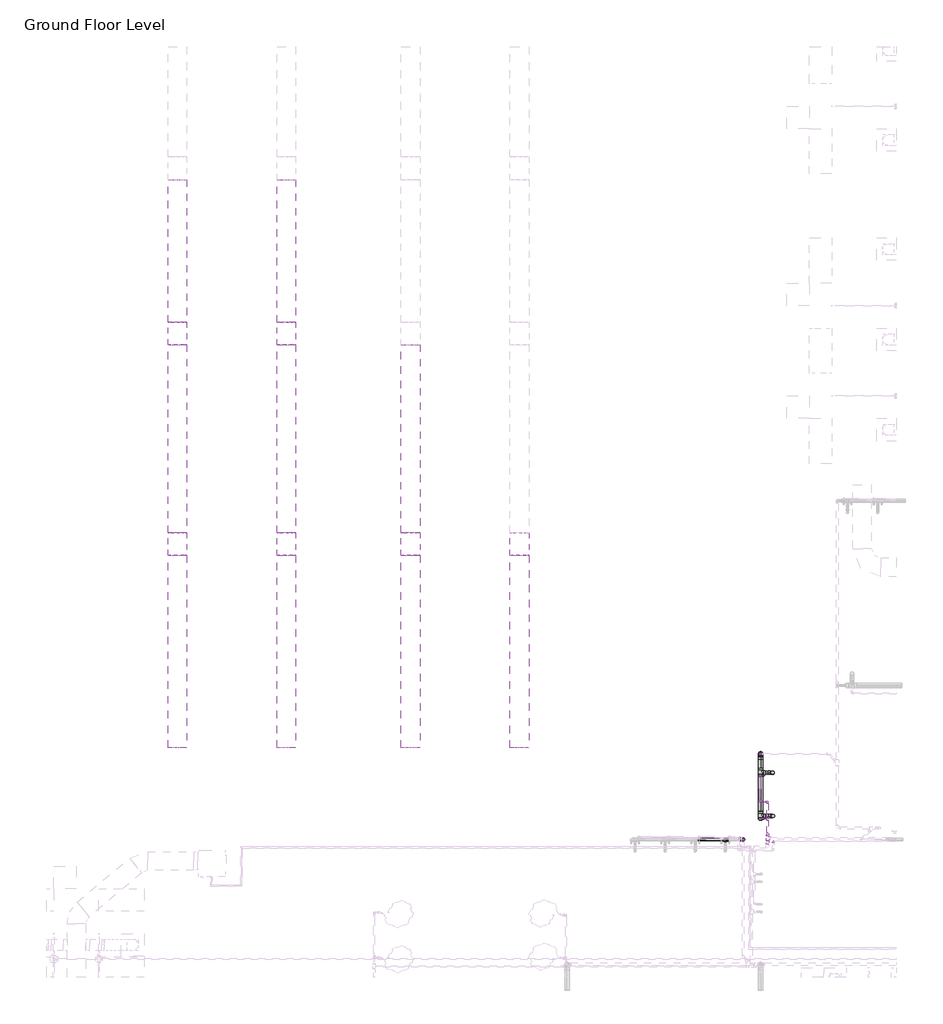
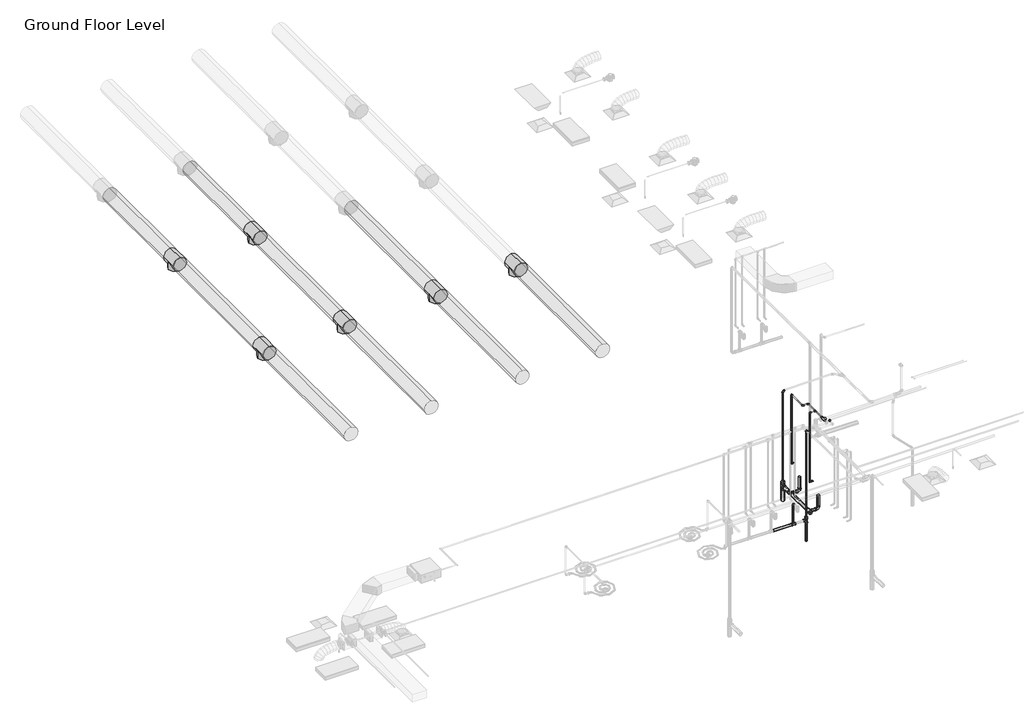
# One storey, part 9 of 75: 24 pipe segments, 23 pipe fittings, 9 duct segments, 6 duct fittings.
"""IFC4 building model written with IfcOpenShell, lengths in millimetres."""

from ifc_helpers import new_model, si_unit, point, frame, frame_2d, origin, place, context, project, spatial, circle_curve, trimmed, segment, composite_curve, outline, extrude, transform, mapped, element, save
from components import m_round_tee_standard_ed589d36, m_bend_pvc_sch_40_dwv_standard_a4b99d37, m_bend_pvc_sch_40_dwv_standard_1e7bdcc1, m_bend_pvc_sch_40_dwv_standard_877aed9a, m_bend_pvc_sch_40_dwv_standard_aca7b112, m_plug_pvc_sch_40_dwv_standard_6c40de1c, m_reducer_pvc_sch_40_dwv_standard_19331f3d, m_reducer_pvc_sch_40_dwv_standard_b84ad399, m_tee_reducing_sanitary_pvc_sch_40_dwv_standard_b49161a9, m_tee_reducing_sanitary_pvc_sch_40_dwv_standard_21d2848c, m_tee_reducing_sanitary_pvc_sch_40_dwv_standard_b574f8c1, m_tee_reducing_sanitary_pvc_sch_40_dwv_standard_749dcb00, standard_517a5a8d, standard_72b35c3b, standard_cd25fed3, standard_f1337950

model = new_model("IFC4")

# Units and contexts
model_context = context("Model", 3, world=origin())
ifc_project = project(units=[si_unit("LENGTHUNIT", "METRE", prefix="MILLI")], contexts=[model_context])

# Site, building, storey
site = spatial("IfcSite", under=ifc_project)
building = spatial("IfcBuilding", under=site)
storey = spatial("IfcBuildingStorey", under=building, Name="Ground Floor Level", Elevation=900.0)

# Duct fittings
placement = place(None, origin())
m_round_tee_standard_shape = m_round_tee_standard_ed589d36(model_context)
element("IfcDuctFitting", 1, ObjectType="M_Round Tee : Standard", at=placement, inside=storey, context=model_context, shape_type="MappedRepresentation", body=[
    mapped(m_round_tee_standard_shape, transform((-16150.3527512, -19404.784563, 7765.9063151), x_axis=(0.0, 0.9999999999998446, -5.576948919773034e-07), y_axis=(0.0, 5.576948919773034e-07, 0.9999999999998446), z_axis=(1.0, 0.0, 0.0))),
])
element("IfcDuctFitting", 2, ObjectType="M_Round Tee : Standard", at=placement, inside=storey, context=model_context, shape_type="MappedRepresentation", body=[
    mapped(m_round_tee_standard_shape, transform((-16150.3527512, -25004.784563, 7765.9094382), x_axis=(0.0, 0.9999999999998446, -5.576948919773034e-07), y_axis=(0.0, 5.576948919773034e-07, 0.9999999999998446), z_axis=(1.0, 0.0, 0.0))),
])
element("IfcDuctFitting", 3, ObjectType="M_Round Tee : Standard", at=placement, inside=storey, context=model_context, shape_type="MappedRepresentation", body=[
    mapped(m_round_tee_standard_shape, transform((-13250.3527512, -19404.784563, 7765.9063151), x_axis=(0.0, 0.9999999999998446, -5.576948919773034e-07), y_axis=(0.0, 5.576948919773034e-07, 0.9999999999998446), z_axis=(1.0, 0.0, 0.0))),
])
element("IfcDuctFitting", 4, ObjectType="M_Round Tee : Standard", at=placement, inside=storey, context=model_context, shape_type="MappedRepresentation", body=[
    mapped(m_round_tee_standard_shape, transform((-13250.3527512, -25004.784563, 7765.9094382), x_axis=(0.0, 0.9999999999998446, -5.576948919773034e-07), y_axis=(0.0, 5.576948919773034e-07, 0.9999999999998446), z_axis=(1.0, 0.0, 0.0))),
])
element("IfcDuctFitting", 5, ObjectType="M_Round Tee : Standard", at=placement, inside=storey, context=model_context, shape_type="MappedRepresentation", body=[
    mapped(m_round_tee_standard_shape, transform((-9950.3527512, -25004.784563, 7765.9094382), x_axis=(0.0, 0.9999999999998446, -5.576948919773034e-07), y_axis=(0.0, 5.576948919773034e-07, 0.9999999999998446), z_axis=(1.0, 0.0, 0.0))),
])
element("IfcDuctFitting", 6, ObjectType="M_Round Tee : Standard", at=placement, inside=storey, context=model_context, shape_type="MappedRepresentation", body=[
    mapped(m_round_tee_standard_shape, transform((-7050.3527512, -25004.784563, 7765.9094382), x_axis=(0.0, 0.9999999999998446, -5.576948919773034e-07), y_axis=(0.0, 5.576948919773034e-07, 0.9999999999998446), z_axis=(1.0, 0.0, 0.0))),
])

# Duct segments
element("IfcDuctSegment", 7, ObjectType="Tees", at=placement, inside=storey, context=model_context, shape_type="SweptSolid", body=[
    extrude(outline(composite_curve([segment(trimmed(circle_curve(frame_2d((7765.9061478, -16150.3527512)), 250.0), [point((7765.9061478, -15900.3527512))], [point((8015.9061478, -16150.3527512))], False, "CARTESIAN"), True, "CONTINUOUS"), segment(trimmed(circle_curve(frame_2d((7765.9061478, -16150.3527512)), 250.0), [point((8015.9061478, -16150.3527512))], [point((7765.9061478, -16400.3527512))], False, "CARTESIAN"), True, "CONTINUOUS"), segment(trimmed(circle_curve(frame_2d((7765.9061478, -16150.3527512)), 250.0), [point((7765.9061478, -16400.3527512))], [point((7515.9061478, -16150.3527512))], False, "CARTESIAN"), True, "CONTINUOUS"), segment(trimmed(circle_curve(frame_2d((7765.9061478, -16150.3527512)), 250.0), [point((7515.9061478, -16150.3527512))], [point((7765.9061478, -15900.3527512))], False, "CARTESIAN"), True, "CONTINUOUS")], self_intersect=False)), frame((0.0, -19104.784563, 0.0), z_axis=(0.0, 1.0, 0.0), x_axis=(0.0, 0.0, 1.0)), (0.0, 0.0, 1.0), 3792.000215),
])
element("IfcDuctSegment", 8, ObjectType="Tees", at=placement, inside=storey, context=model_context, shape_type="SweptSolid", body=[
    extrude(outline(composite_curve([segment(trimmed(circle_curve(frame_2d((7765.9092709, -16150.3527512)), 250.0), [point((7765.9092709, -15900.3527512))], [point((8015.9092709, -16150.3527512))], False, "CARTESIAN"), True, "CONTINUOUS"), segment(trimmed(circle_curve(frame_2d((7765.9092709, -16150.3527512)), 250.0), [point((8015.9092709, -16150.3527512))], [point((7765.9092709, -16400.3527512))], False, "CARTESIAN"), True, "CONTINUOUS"), segment(trimmed(circle_curve(frame_2d((7765.9092709, -16150.3527512)), 250.0), [point((7765.9092709, -16400.3527512))], [point((7515.9092709, -16150.3527512))], False, "CARTESIAN"), True, "CONTINUOUS"), segment(trimmed(circle_curve(frame_2d((7765.9092709, -16150.3527512)), 250.0), [point((7515.9092709, -16150.3527512))], [point((7765.9092709, -15900.3527512))], False, "CARTESIAN"), True, "CONTINUOUS")], self_intersect=False)), frame((0.0, -24704.784563, 0.0), z_axis=(0.0, 1.0, 0.0), x_axis=(0.0, 0.0, 1.0)), (0.0, 0.0, 1.0), 5000.0),
])
element("IfcDuctSegment", 9, ObjectType="Tees", at=placement, inside=storey, context=model_context, shape_type="SweptSolid", body=[
    extrude(outline(composite_curve([segment(trimmed(circle_curve(frame_2d((7765.9125, -16150.3527512)), 250.0), [point((7765.9125, -15900.3527512))], [point((8015.9125, -16150.3527512))], False, "CARTESIAN"), True, "CONTINUOUS"), segment(trimmed(circle_curve(frame_2d((7765.9125, -16150.3527512)), 250.0), [point((8015.9125, -16150.3527512))], [point((7765.9125, -16400.3527512))], False, "CARTESIAN"), True, "CONTINUOUS"), segment(trimmed(circle_curve(frame_2d((7765.9125, -16150.3527512)), 250.0), [point((7765.9125, -16400.3527512))], [point((7515.9125, -16150.3527512))], False, "CARTESIAN"), True, "CONTINUOUS"), segment(trimmed(circle_curve(frame_2d((7765.9125, -16150.3527512)), 250.0), [point((7515.9125, -16150.3527512))], [point((7765.9125, -15900.3527512))], False, "CARTESIAN"), True, "CONTINUOUS")], self_intersect=False)), frame((0.0, -30422.0587669, 0.0), z_axis=(0.0, 1.0, 0.0), x_axis=(0.0, 0.0, 1.0)), (0.0, 0.0, 1.0), 5117.2742039),
])
element("IfcDuctSegment", 10, ObjectType="Tees", at=placement, inside=storey, context=model_context, shape_type="SweptSolid", body=[
    extrude(outline(composite_curve([segment(trimmed(circle_curve(frame_2d((7765.9061478, -13250.3527512)), 250.0), [point((7765.9061478, -13000.3527512))], [point((8015.9061478, -13250.3527512))], False, "CARTESIAN"), True, "CONTINUOUS"), segment(trimmed(circle_curve(frame_2d((7765.9061478, -13250.3527512)), 250.0), [point((8015.9061478, -13250.3527512))], [point((7765.9061478, -13500.3527512))], False, "CARTESIAN"), True, "CONTINUOUS"), segment(trimmed(circle_curve(frame_2d((7765.9061478, -13250.3527512)), 250.0), [point((7765.9061478, -13500.3527512))], [point((7515.9061478, -13250.3527512))], False, "CARTESIAN"), True, "CONTINUOUS"), segment(trimmed(circle_curve(frame_2d((7765.9061478, -13250.3527512)), 250.0), [point((7515.9061478, -13250.3527512))], [point((7765.9061478, -13000.3527512))], False, "CARTESIAN"), True, "CONTINUOUS")], self_intersect=False)), frame((0.0, -19104.784563, 0.0), z_axis=(0.0, 1.0, 0.0), x_axis=(0.0, 0.0, 1.0)), (0.0, 0.0, 1.0), 3792.000215),
])
element("IfcDuctSegment", 11, ObjectType="Tees", at=placement, inside=storey, context=model_context, shape_type="SweptSolid", body=[
    extrude(outline(composite_curve([segment(trimmed(circle_curve(frame_2d((7765.9092709, -13250.3527512)), 250.0), [point((7765.9092709, -13000.3527512))], [point((8015.9092709, -13250.3527512))], False, "CARTESIAN"), True, "CONTINUOUS"), segment(trimmed(circle_curve(frame_2d((7765.9092709, -13250.3527512)), 250.0), [point((8015.9092709, -13250.3527512))], [point((7765.9092709, -13500.3527512))], False, "CARTESIAN"), True, "CONTINUOUS"), segment(trimmed(circle_curve(frame_2d((7765.9092709, -13250.3527512)), 250.0), [point((7765.9092709, -13500.3527512))], [point((7515.9092709, -13250.3527512))], False, "CARTESIAN"), True, "CONTINUOUS"), segment(trimmed(circle_curve(frame_2d((7765.9092709, -13250.3527512)), 250.0), [point((7515.9092709, -13250.3527512))], [point((7765.9092709, -13000.3527512))], False, "CARTESIAN"), True, "CONTINUOUS")], self_intersect=False)), frame((0.0, -24704.784563, 0.0), z_axis=(0.0, 1.0, 0.0), x_axis=(0.0, 0.0, 1.0)), (0.0, 0.0, 1.0), 5000.0),
])
element("IfcDuctSegment", 12, ObjectType="Tees", at=placement, inside=storey, context=model_context, shape_type="SweptSolid", body=[
    extrude(outline(composite_curve([segment(trimmed(circle_curve(frame_2d((7765.9125, -13250.3527512)), 250.0), [point((7765.9125, -13000.3527512))], [point((8015.9125, -13250.3527512))], False, "CARTESIAN"), True, "CONTINUOUS"), segment(trimmed(circle_curve(frame_2d((7765.9125, -13250.3527512)), 250.0), [point((8015.9125, -13250.3527512))], [point((7765.9125, -13500.3527512))], False, "CARTESIAN"), True, "CONTINUOUS"), segment(trimmed(circle_curve(frame_2d((7765.9125, -13250.3527512)), 250.0), [point((7765.9125, -13500.3527512))], [point((7515.9125, -13250.3527512))], False, "CARTESIAN"), True, "CONTINUOUS"), segment(trimmed(circle_curve(frame_2d((7765.9125, -13250.3527512)), 250.0), [point((7515.9125, -13250.3527512))], [point((7765.9125, -13000.3527512))], False, "CARTESIAN"), True, "CONTINUOUS")], self_intersect=False)), frame((0.0, -30422.0587669, 0.0), z_axis=(0.0, 1.0, 0.0), x_axis=(0.0, 0.0, 1.0)), (0.0, 0.0, 1.0), 5117.2742039),
])
element("IfcDuctSegment", 13, ObjectType="Tees", at=placement, inside=storey, context=model_context, shape_type="SweptSolid", body=[
    extrude(outline(composite_curve([segment(trimmed(circle_curve(frame_2d((7765.9092709, -9950.3527512)), 250.0), [point((7765.9092709, -9700.3527512))], [point((8015.9092709, -9950.3527512))], False, "CARTESIAN"), True, "CONTINUOUS"), segment(trimmed(circle_curve(frame_2d((7765.9092709, -9950.3527512)), 250.0), [point((8015.9092709, -9950.3527512))], [point((7765.9092709, -10200.3527512))], False, "CARTESIAN"), True, "CONTINUOUS"), segment(trimmed(circle_curve(frame_2d((7765.9092709, -9950.3527512)), 250.0), [point((7765.9092709, -10200.3527512))], [point((7515.9092709, -9950.3527512))], False, "CARTESIAN"), True, "CONTINUOUS"), segment(trimmed(circle_curve(frame_2d((7765.9092709, -9950.3527512)), 250.0), [point((7515.9092709, -9950.3527512))], [point((7765.9092709, -9700.3527512))], False, "CARTESIAN"), True, "CONTINUOUS")], self_intersect=False)), frame((0.0, -24704.784563, 0.0), z_axis=(0.0, 1.0, 0.0), x_axis=(0.0, 0.0, 1.0)), (0.0, 0.0, 1.0), 5000.0),
])
element("IfcDuctSegment", 14, ObjectType="Tees", at=placement, inside=storey, context=model_context, shape_type="SweptSolid", body=[
    extrude(outline(composite_curve([segment(trimmed(circle_curve(frame_2d((7765.9125, -9950.3527512)), 250.0), [point((7765.9125, -9700.3527512))], [point((8015.9125, -9950.3527512))], False, "CARTESIAN"), True, "CONTINUOUS"), segment(trimmed(circle_curve(frame_2d((7765.9125, -9950.3527512)), 250.0), [point((8015.9125, -9950.3527512))], [point((7765.9125, -10200.3527512))], False, "CARTESIAN"), True, "CONTINUOUS"), segment(trimmed(circle_curve(frame_2d((7765.9125, -9950.3527512)), 250.0), [point((7765.9125, -10200.3527512))], [point((7515.9125, -9950.3527512))], False, "CARTESIAN"), True, "CONTINUOUS"), segment(trimmed(circle_curve(frame_2d((7765.9125, -9950.3527512)), 250.0), [point((7515.9125, -9950.3527512))], [point((7765.9125, -9700.3527512))], False, "CARTESIAN"), True, "CONTINUOUS")], self_intersect=False)), frame((0.0, -30422.0587669, 0.0), z_axis=(0.0, 1.0, 0.0), x_axis=(0.0, 0.0, 1.0)), (0.0, 0.0, 1.0), 5117.2742039),
])
element("IfcDuctSegment", 15, ObjectType="Tees", at=placement, inside=storey, context=model_context, shape_type="SweptSolid", body=[
    extrude(outline(composite_curve([segment(trimmed(circle_curve(frame_2d((7765.9125, -7050.3527512)), 250.0), [point((7765.9125, -6800.3527512))], [point((8015.9125, -7050.3527512))], False, "CARTESIAN"), True, "CONTINUOUS"), segment(trimmed(circle_curve(frame_2d((7765.9125, -7050.3527512)), 250.0), [point((8015.9125, -7050.3527512))], [point((7765.9125, -7300.3527512))], False, "CARTESIAN"), True, "CONTINUOUS"), segment(trimmed(circle_curve(frame_2d((7765.9125, -7050.3527512)), 250.0), [point((7765.9125, -7300.3527512))], [point((7515.9125, -7050.3527512))], False, "CARTESIAN"), True, "CONTINUOUS"), segment(trimmed(circle_curve(frame_2d((7765.9125, -7050.3527512)), 250.0), [point((7515.9125, -7050.3527512))], [point((7765.9125, -6800.3527512))], False, "CARTESIAN"), True, "CONTINUOUS")], self_intersect=False)), frame((0.0, -30422.0587669, 0.0), z_axis=(0.0, 1.0, 0.0), x_axis=(0.0, 0.0, 1.0)), (0.0, 0.0, 1.0), 5117.2742039),
])

# Pipe fittings
m_bend_pvc_sch_40_dwv_standard_shape = m_bend_pvc_sch_40_dwv_standard_a4b99d37(model_context)
element("IfcPipeFitting", 16, ObjectType="M_Bend - PVC - Sch 40 - DWV : Standard", at=placement, inside=storey, context=model_context, shape_type="MappedRepresentation", body=[
    mapped(m_bend_pvc_sch_40_dwv_standard_shape, transform((-313.6900632, -31081.5465789, 464.3982101), x_axis=(0.0, 0.0, -1.0), y_axis=(-1.0, 0.0, 0.0), z_axis=(0.0, 1.0, 0.0))),
])
element("IfcPipeFitting", 17, ObjectType="M_Bend - PVC - Sch 40 - DWV : Standard", at=placement, inside=storey, context=model_context, shape_type="MappedRepresentation", body=[
    mapped(m_bend_pvc_sch_40_dwv_standard_shape, transform((-303.6900633, -32234.266625, 475.9254106), x_axis=(0.0, 0.0, -1.0), y_axis=(-1.0, 0.0, 0.0), z_axis=(0.0, 1.0, 0.0))),
])
m_bend_pvc_sch_40_dwv_standard_2_shape = m_bend_pvc_sch_40_dwv_standard_1e7bdcc1(model_context)
element("IfcPipeFitting", 18, ObjectType="M_Bend - PVC - Sch 40 - DWV : Standard", at=placement, inside=storey, context=model_context, shape_type="MappedRepresentation", body=[
    mapped(m_bend_pvc_sch_40_dwv_standard_2_shape, transform((-1573.215321, -32858.7119065, 1488.3035905), x_axis=(0.0, 0.9999500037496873, -0.009999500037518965), y_axis=(0.0, -0.009999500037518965, -0.9999500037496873), z_axis=(-1.0, 0.0, 0.0))),
])
m_bend_pvc_sch_40_dwv_standard_3_shape = m_bend_pvc_sch_40_dwv_standard_877aed9a(model_context)
element("IfcPipeFitting", 19, ObjectType="M_Bend - PVC - Sch 40 - DWV : Standard", at=placement, inside=storey, context=model_context, shape_type="MappedRepresentation", body=[
    mapped(m_bend_pvc_sch_40_dwv_standard_3_shape, transform((-1099.4034743, -32858.7119242, 4127.038), x_axis=(0.0, 0.0, 1.0), y_axis=(0.0, -1.0, 0.0), z_axis=(1.0, 0.0, 0.0))),
])
m_bend_pvc_sch_40_dwv_standard_4_shape = m_bend_pvc_sch_40_dwv_standard_aca7b112(model_context)
element("IfcPipeFitting", 20, ObjectType="M_Bend - PVC - Sch 40 - DWV : Standard", at=placement, inside=storey, context=model_context, shape_type="MappedRepresentation", body=[
    mapped(m_bend_pvc_sch_40_dwv_standard_4_shape, transform((-633.5363684, -30581.7541446, 4084.0463877), x_axis=(0.0, 0.0, 1.0), y_axis=(1.0, 0.0, 0.0), z_axis=(0.0, 1.0, 0.0))),
])
m_plug_pvc_sch_40_dwv_standard_shape = m_plug_pvc_sch_40_dwv_standard_6c40de1c(model_context)
element("IfcPipeFitting", 21, ObjectType="M_Plug - PVC - Sch 40 - DWV : Standard", at=placement, inside=storey, context=model_context, shape_type="MappedRepresentation", body=[
    mapped(m_plug_pvc_sch_40_dwv_standard_shape, transform((-633.5600391, -32323.1621803, 476.8143661), x_axis=(0.0, -0.9999500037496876, 0.009999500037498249), y_axis=(1.0000000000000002, 0.0, 0.0), z_axis=(0.0, 0.009999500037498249, 0.9999500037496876))),
])
m_reducer_pvc_sch_40_dwv_standard_shape = m_reducer_pvc_sch_40_dwv_standard_19331f3d(model_context)
element("IfcPipeFitting", 22, ObjectType="M_Reducer - PVC - Sch 40 - DWV : Standard", at=placement, inside=storey, context=model_context, shape_type="MappedRepresentation", body=[
    mapped(m_reducer_pvc_sch_40_dwv_standard_shape, transform((-633.5600391, -30581.725568, 578.5642409), x_axis=(0.0, 0.0, 1.0), y_axis=(0.0, 1.0, 0.0), z_axis=(-1.0, 0.0, 0.0))),
])
m_reducer_pvc_sch_40_dwv_standard_2_shape = m_reducer_pvc_sch_40_dwv_standard_b84ad399(model_context)
element("IfcPipeFitting", 23, ObjectType="M_Reducer - PVC - Sch 40 - DWV : Standard", at=placement, inside=storey, context=model_context, shape_type="MappedRepresentation", body=[
    mapped(m_reducer_pvc_sch_40_dwv_standard_2_shape, transform((-1099.4034743, -32858.6819272, 783.2824384), x_axis=(0.0, 0.0, 1.0), y_axis=(-1.0, 0.0, 0.0), z_axis=(0.0, -1.0, 0.0))),
])
m_tee_reducing_sanitary_pvc_sch_40_dwv_standard_shape = m_tee_reducing_sanitary_pvc_sch_40_dwv_standard_b49161a9(model_context)
element("IfcPipeFitting", 24, ObjectType="M_Tee Reducing Sanitary - PVC - Sch 40 - DWV : Standard", at=placement, inside=storey, context=model_context, shape_type="MappedRepresentation", body=[
    mapped(m_tee_reducing_sanitary_pvc_sch_40_dwv_standard_shape, transform((-633.5600391, -31081.5465789, 464.3982101), x_axis=(0.0, -0.9999500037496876, 0.009999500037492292), y_axis=(-1.0, 0.0, 0.0), z_axis=(0.0, -0.009999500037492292, -0.9999500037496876))),
])
element("IfcPipeFitting", 25, ObjectType="M_Tee Reducing Sanitary - PVC - Sch 40 - DWV : Standard", at=placement, inside=storey, context=model_context, shape_type="MappedRepresentation", body=[
    mapped(m_tee_reducing_sanitary_pvc_sch_40_dwv_standard_shape, transform((-633.5600391, -32234.266625, 475.9254106), x_axis=(0.0, -0.9999500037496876, 0.009999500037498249), y_axis=(-1.0000000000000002, 0.0, 0.0), z_axis=(0.0, -0.009999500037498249, -0.9999500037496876))),
])
m_tee_reducing_sanitary_pvc_sch_40_dwv_standard_2_shape = m_tee_reducing_sanitary_pvc_sch_40_dwv_standard_21d2848c(model_context)
element("IfcPipeFitting", 26, ObjectType="M_Tee Reducing Sanitary - PVC - Sch 40 - DWV : Standard", at=placement, inside=storey, context=model_context, shape_type="MappedRepresentation", body=[
    mapped(m_tee_reducing_sanitary_pvc_sch_40_dwv_standard_2_shape, transform((-1573.215321, -32858.7119065, 694.4349821), x_axis=(-0.9999500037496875, 0.0, 0.009999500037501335), y_axis=(-0.009999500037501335, 0.0, -0.9999500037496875), z_axis=(0.0, -1.0, 0.0))),
])
m_tee_reducing_sanitary_pvc_sch_40_dwv_standard_3_shape = m_tee_reducing_sanitary_pvc_sch_40_dwv_standard_b574f8c1(model_context)
element("IfcPipeFitting", 27, ObjectType="M_Tee Reducing Sanitary - PVC - Sch 40 - DWV : Standard", at=placement, inside=storey, context=model_context, shape_type="MappedRepresentation", body=[
    mapped(m_tee_reducing_sanitary_pvc_sch_40_dwv_standard_3_shape, transform((-1099.4034743, -32858.6819272, 689.7), x_axis=(0.0, 0.0, 1.0), y_axis=(1.0, 0.0, 0.0), z_axis=(0.0, 1.0, 0.0))),
])
m_tee_reducing_sanitary_pvc_sch_40_dwv_standard_4_shape = m_tee_reducing_sanitary_pvc_sch_40_dwv_standard_749dcb00(model_context)
element("IfcPipeFitting", 28, ObjectType="M_Tee Reducing Sanitary - PVC - Sch 40 - DWV : Standard", at=placement, inside=storey, context=model_context, shape_type="MappedRepresentation", body=[
    mapped(m_tee_reducing_sanitary_pvc_sch_40_dwv_standard_4_shape, transform((-633.5600391, -30581.725568, 459.4), x_axis=(0.0, 0.0, 1.0), y_axis=(0.0, 1.0, 0.0), z_axis=(-1.0, 0.0, 0.0))),
])
standard_shape = standard_517a5a8d(model_context)
element("IfcPipeFitting", 29, ObjectType="M_Elbow - CPVC - Sch 40 : Standard", at=placement, inside=storey, context=model_context, shape_type="MappedRepresentation", body=[
    mapped(standard_shape, transform((-647.2327605, -31154.9853451, 1655.0), x_axis=(-1.0, 0.0, 0.0), y_axis=(0.0, 0.0, 1.0), z_axis=(0.0, 1.0, 0.0))),
])
element("IfcPipeFitting", 30, ObjectType="M_Elbow - CPVC - Sch 40 : Standard", at=placement, inside=storey, context=model_context, shape_type="MappedRepresentation", body=[
    mapped(standard_shape, transform((-647.2327605, -31154.9853451, 4300.0), x_axis=(0.0, 0.0, 1.0), y_axis=(0.0, -1.0, 0.0), z_axis=(1.0, 0.0, 0.0))),
])
element("IfcPipeFitting", 31, ObjectType="M_Elbow - CPVC - Sch 40 : Standard", at=placement, inside=storey, context=model_context, shape_type="MappedRepresentation", body=[
    mapped(standard_shape, transform((-647.2327605, -31854.9853451, 4300.0), x_axis=(0.0, -1.0, 0.0), y_axis=(1.0, 0.0, 0.0), z_axis=(0.0, 0.0, 1.0))),
])
element("IfcPipeFitting", 32, ObjectType="M_Elbow - CPVC - Sch 40 : Standard", at=placement, inside=storey, context=model_context, shape_type="MappedRepresentation", body=[
    mapped(standard_shape, transform((-447.2327605, -31854.9853451, 4300.0), x_axis=(0.0, 1.0, 0.0), y_axis=(-1.0, 0.0, 0.0), z_axis=(0.0, 0.0, 1.0))),
])
element("IfcPipeFitting", 33, ObjectType="M_Elbow - CPVC - Sch 40 : Standard", at=placement, inside=storey, context=model_context, shape_type="MappedRepresentation", body=[
    mapped(standard_shape, transform((-657.2327605, -32307.7053912, 1655.0), x_axis=(-1.0, 0.0, 0.0), y_axis=(0.0, 0.0, 1.0), z_axis=(0.0, 1.0, 0.0))),
])
element("IfcPipeFitting", 34, ObjectType="M_Elbow - CPVC - Sch 40 : Standard", at=placement, inside=storey, context=model_context, shape_type="MappedRepresentation", body=[
    mapped(standard_shape, transform((-657.2327605, -32307.7053912, 4300.0), x_axis=(0.0, 0.0, 1.0), y_axis=(1.0, 0.0, 0.0), z_axis=(0.0, 1.0, 0.0))),
])
element("IfcPipeFitting", 35, ObjectType="M_Elbow - CPVC - Sch 40 : Standard", at=placement, inside=storey, context=model_context, shape_type="MappedRepresentation", body=[
    mapped(standard_shape, transform((-299.4424198, -32905.870708, 4250.0), x_axis=(-1.0, 0.0, 0.0), y_axis=(0.0, -1.0, 0.0), z_axis=(0.0, 0.0, 1.0))),
])
standard_2_shape = standard_72b35c3b(model_context)
element("IfcPipeFitting", 36, ObjectType="M_Tee - CPVC - Sch 40 : Standard", at=placement, inside=storey, context=model_context, shape_type="MappedRepresentation", body=[
    mapped(standard_2_shape, transform((-447.2327605, -32307.7053912, 4300.0), x_axis=(0.0, 1.0, 0.0), y_axis=(1.0, 0.0, 0.0), z_axis=(0.0, 0.0, -1.0))),
])
standard_3_shape = standard_cd25fed3(model_context)
element("IfcPipeFitting", 37, ObjectType="M_Tee - CPVC - Sch 40 : Standard", at=placement, inside=storey, context=model_context, shape_type="MappedRepresentation", body=[
    mapped(standard_3_shape, transform((-447.2327605, -32824.9853451, 4300.0), x_axis=(0.0, -1.0, 0.0), y_axis=(-1.0, 0.0, 0.0), z_axis=(0.0, 0.0, -1.0))),
])
standard_4_shape = standard_f1337950(model_context)
element("IfcPipeFitting", 38, ObjectType="M_Coupling Reducing - CPVC - Sch 40 : Standard", at=placement, inside=storey, context=model_context, shape_type="MappedRepresentation", body=[
    mapped(standard_4_shape, transform((-447.2327605, -32758.3103451, 4300.0), x_axis=(0.0, 1.0, 0.0), y_axis=(-1.0, 0.0, 0.0), z_axis=(0.0, 0.0, 1.0))),
])

# Pipe segments
element("IfcPipeSegment", 39, ObjectType="CPVC", at=placement, inside=storey, context=model_context, shape_type="SweptSolid", body=[
    extrude(outline(composite_curve([segment(trimmed(circle_curve(frame_2d((-31154.9853451, 1655.0)), 16.7005), [point((-31138.2848451, 1655.0))], [point((-31154.9853451, 1638.2995))], False, "CARTESIAN"), True, "CONTINUOUS"), segment(trimmed(circle_curve(frame_2d((-31154.9853451, 1655.0)), 16.7005), [point((-31154.9853451, 1638.2995))], [point((-31171.6858451, 1655.0))], False, "CARTESIAN"), True, "CONTINUOUS"), segment(trimmed(circle_curve(frame_2d((-31154.9853451, 1655.0)), 16.7005), [point((-31171.6858451, 1655.0))], [point((-31154.9853451, 1671.7005))], False, "CARTESIAN"), True, "CONTINUOUS"), segment(trimmed(circle_curve(frame_2d((-31154.9853451, 1655.0)), 16.7005), [point((-31154.9853451, 1671.7005))], [point((-31138.2848451, 1655.0))], False, "CARTESIAN"), True, "CONTINUOUS")], self_intersect=False)), frame((-603.9702105, 0.0, 0.0), z_axis=(1.0, 0.0, 0.0), x_axis=(0.0, 1.0, 0.0)), (0.0, 0.0, 1.0), 56.73745),
])
element("IfcPipeSegment", 40, ObjectType="CPVC", at=placement, inside=storey, context=model_context, shape_type="SweptSolid", body=[
    extrude(outline(composite_curve([segment(trimmed(circle_curve(frame_2d((4300.0, -647.2327605)), 16.7005), [point((4300.0, -663.9332605))], [point((4283.2995, -647.2327605))], False, "CARTESIAN"), True, "CONTINUOUS"), segment(trimmed(circle_curve(frame_2d((4300.0, -647.2327605)), 16.7005), [point((4283.2995, -647.2327605))], [point((4300.0, -630.5322605))], False, "CARTESIAN"), True, "CONTINUOUS"), segment(trimmed(circle_curve(frame_2d((4300.0, -647.2327605)), 16.7005), [point((4300.0, -630.5322605))], [point((4316.7005, -647.2327605))], False, "CARTESIAN"), True, "CONTINUOUS"), segment(trimmed(circle_curve(frame_2d((4300.0, -647.2327605)), 16.7005), [point((4316.7005, -647.2327605))], [point((4300.0, -663.9332605))], False, "CARTESIAN"), True, "CONTINUOUS")], self_intersect=False)), frame((0.0, -31811.7227951, 0.0), z_axis=(0.0, 1.0, 0.0), x_axis=(0.0, 0.0, 1.0)), (0.0, 0.0, 1.0), 613.4749),
])
element("IfcPipeSegment", 41, ObjectType="CPVC", at=placement, inside=storey, context=model_context, shape_type="SweptSolid", body=[
    extrude(outline(composite_curve([segment(trimmed(circle_curve(frame_2d((-647.2327605, -31154.9853451)), 16.7005), [point((-663.9332605, -31154.9853451))], [point((-647.2327605, -31138.2848451))], False, "CARTESIAN"), True, "CONTINUOUS"), segment(trimmed(circle_curve(frame_2d((-647.2327605, -31154.9853451)), 16.7005), [point((-647.2327605, -31138.2848451))], [point((-630.5322605, -31154.9853451))], False, "CARTESIAN"), True, "CONTINUOUS"), segment(trimmed(circle_curve(frame_2d((-647.2327605, -31154.9853451)), 16.7005), [point((-630.5322605, -31154.9853451))], [point((-647.2327605, -31171.6858451))], False, "CARTESIAN"), True, "CONTINUOUS"), segment(trimmed(circle_curve(frame_2d((-647.2327605, -31154.9853451)), 16.7005), [point((-647.2327605, -31171.6858451))], [point((-663.9332605, -31154.9853451))], False, "CARTESIAN"), True, "CONTINUOUS")], self_intersect=False)), frame((0.0, 0.0, 1698.26255), z_axis=(0.0, 0.0, 1.0), x_axis=(1.0, 0.0, 0.0)), (0.0, 0.0, 1.0), 2558.4749),
])
element("IfcPipeSegment", 42, ObjectType="CPVC", at=placement, inside=storey, context=model_context, shape_type="SweptSolid", body=[
    extrude(outline(composite_curve([segment(trimmed(circle_curve(frame_2d((-31854.9853451, 4300.0)), 16.7005), [point((-31871.6858451, 4300.0))], [point((-31854.9853451, 4316.7005))], False, "CARTESIAN"), True, "CONTINUOUS"), segment(trimmed(circle_curve(frame_2d((-31854.9853451, 4300.0)), 16.7005), [point((-31854.9853451, 4316.7005))], [point((-31838.2848451, 4300.0))], False, "CARTESIAN"), True, "CONTINUOUS"), segment(trimmed(circle_curve(frame_2d((-31854.9853451, 4300.0)), 16.7005), [point((-31838.2848451, 4300.0))], [point((-31854.9853451, 4283.2995))], False, "CARTESIAN"), True, "CONTINUOUS"), segment(trimmed(circle_curve(frame_2d((-31854.9853451, 4300.0)), 16.7005), [point((-31854.9853451, 4283.2995))], [point((-31871.6858451, 4300.0))], False, "CARTESIAN"), True, "CONTINUOUS")], self_intersect=False)), frame((-603.9702105, 0.0, 0.0), z_axis=(1.0, 0.0, 0.0), x_axis=(0.0, 1.0, 0.0)), (0.0, 0.0, 1.0), 113.4749),
])
element("IfcPipeSegment", 43, ObjectType="CPVC", at=placement, inside=storey, context=model_context, shape_type="SweptSolid", body=[
    extrude(outline(composite_curve([segment(trimmed(circle_curve(frame_2d((4300.0, -447.2327605)), 16.7005), [point((4300.0, -463.9332605))], [point((4283.2995, -447.2327605))], False, "CARTESIAN"), True, "CONTINUOUS"), segment(trimmed(circle_curve(frame_2d((4300.0, -447.2327605)), 16.7005), [point((4283.2995, -447.2327605))], [point((4300.0, -430.5322605))], False, "CARTESIAN"), True, "CONTINUOUS"), segment(trimmed(circle_curve(frame_2d((4300.0, -447.2327605)), 16.7005), [point((4300.0, -430.5322605))], [point((4316.7005, -447.2327605))], False, "CARTESIAN"), True, "CONTINUOUS"), segment(trimmed(circle_curve(frame_2d((4300.0, -447.2327605)), 16.7005), [point((4316.7005, -447.2327605))], [point((4300.0, -463.9332605))], False, "CARTESIAN"), True, "CONTINUOUS")], self_intersect=False)), frame((0.0, -32678.5114701, 0.0), z_axis=(0.0, 1.0, 0.0), x_axis=(0.0, 0.0, 1.0)), (0.0, 0.0, 1.0), 331.1058789),
])
element("IfcPipeSegment", 44, ObjectType="CPVC", at=placement, inside=storey, context=model_context, shape_type="SweptSolid", body=[
    extrude(outline(composite_curve([segment(trimmed(circle_curve(frame_2d((-32307.7053912, 1655.0)), 16.7005), [point((-32291.0048912, 1655.0))], [point((-32307.7053912, 1638.2995))], False, "CARTESIAN"), True, "CONTINUOUS"), segment(trimmed(circle_curve(frame_2d((-32307.7053912, 1655.0)), 16.7005), [point((-32307.7053912, 1638.2995))], [point((-32324.4058912, 1655.0))], False, "CARTESIAN"), True, "CONTINUOUS"), segment(trimmed(circle_curve(frame_2d((-32307.7053912, 1655.0)), 16.7005), [point((-32324.4058912, 1655.0))], [point((-32307.7053912, 1671.7005))], False, "CARTESIAN"), True, "CONTINUOUS"), segment(trimmed(circle_curve(frame_2d((-32307.7053912, 1655.0)), 16.7005), [point((-32307.7053912, 1671.7005))], [point((-32291.0048912, 1655.0))], False, "CARTESIAN"), True, "CONTINUOUS")], self_intersect=False)), frame((-613.9702105, 0.0, 0.0), z_axis=(1.0, 0.0, 0.0), x_axis=(0.0, 1.0, 0.0)), (0.0, 0.0, 1.0), 76.73745),
])
element("IfcPipeSegment", 45, ObjectType="CPVC", at=placement, inside=storey, context=model_context, shape_type="SweptSolid", body=[
    extrude(outline(composite_curve([segment(trimmed(circle_curve(frame_2d((-32307.7053912, 4300.0)), 16.7005), [point((-32291.0048912, 4300.0))], [point((-32307.7053912, 4283.2995))], False, "CARTESIAN"), True, "CONTINUOUS"), segment(trimmed(circle_curve(frame_2d((-32307.7053912, 4300.0)), 16.7005), [point((-32307.7053912, 4283.2995))], [point((-32324.4058912, 4300.0))], False, "CARTESIAN"), True, "CONTINUOUS"), segment(trimmed(circle_curve(frame_2d((-32307.7053912, 4300.0)), 16.7005), [point((-32324.4058912, 4300.0))], [point((-32307.7053912, 4316.7005))], False, "CARTESIAN"), True, "CONTINUOUS"), segment(trimmed(circle_curve(frame_2d((-32307.7053912, 4300.0)), 16.7005), [point((-32307.7053912, 4316.7005))], [point((-32291.0048912, 4300.0))], False, "CARTESIAN"), True, "CONTINUOUS")], self_intersect=False)), frame((-613.9702105, 0.0, 0.0), z_axis=(1.0, 0.0, 0.0), x_axis=(0.0, 1.0, 0.0)), (0.0, 0.0, 1.0), 127.03725),
])
element("IfcPipeSegment", 46, ObjectType="CPVC", at=placement, inside=storey, context=model_context, shape_type="SweptSolid", body=[
    extrude(outline(composite_curve([segment(trimmed(circle_curve(frame_2d((-657.2327605, -32307.7053912)), 16.7005), [point((-673.9332605, -32307.7053912))], [point((-657.2327605, -32291.0048912))], False, "CARTESIAN"), True, "CONTINUOUS"), segment(trimmed(circle_curve(frame_2d((-657.2327605, -32307.7053912)), 16.7005), [point((-657.2327605, -32291.0048912))], [point((-640.5322605, -32307.7053912))], False, "CARTESIAN"), True, "CONTINUOUS"), segment(trimmed(circle_curve(frame_2d((-657.2327605, -32307.7053912)), 16.7005), [point((-640.5322605, -32307.7053912))], [point((-657.2327605, -32324.4058912))], False, "CARTESIAN"), True, "CONTINUOUS"), segment(trimmed(circle_curve(frame_2d((-657.2327605, -32307.7053912)), 16.7005), [point((-657.2327605, -32324.4058912))], [point((-673.9332605, -32307.7053912))], False, "CARTESIAN"), True, "CONTINUOUS")], self_intersect=False)), frame((0.0, 0.0, 1698.26255), z_axis=(0.0, 0.0, 1.0), x_axis=(1.0, 0.0, 0.0)), (0.0, 0.0, 1.0), 2558.4749),
])
element("IfcPipeSegment", 47, ObjectType="CPVC", at=placement, inside=storey, context=model_context, shape_type="SweptSolid", body=[
    extrude(outline(composite_curve([segment(trimmed(circle_curve(frame_2d((4300.0, -447.2327605)), 16.7005), [point((4300.0, -463.9332605))], [point((4283.2995, -447.2327605))], False, "CARTESIAN"), True, "CONTINUOUS"), segment(trimmed(circle_curve(frame_2d((4300.0, -447.2327605)), 16.7005), [point((4283.2995, -447.2327605))], [point((4300.0, -430.5322605))], False, "CARTESIAN"), True, "CONTINUOUS"), segment(trimmed(circle_curve(frame_2d((4300.0, -447.2327605)), 16.7005), [point((4300.0, -430.5322605))], [point((4316.7005, -447.2327605))], False, "CARTESIAN"), True, "CONTINUOUS"), segment(trimmed(circle_curve(frame_2d((4300.0, -447.2327605)), 16.7005), [point((4316.7005, -447.2327605))], [point((4300.0, -463.9332605))], False, "CARTESIAN"), True, "CONTINUOUS")], self_intersect=False)), frame((0.0, -32268.0051912, 0.0), z_axis=(0.0, 1.0, 0.0), x_axis=(0.0, 0.0, 1.0)), (0.0, 0.0, 1.0), 369.7572961),
])
element("IfcPipeSegment", 48, ObjectType="CPVC", at=placement, inside=storey, context=model_context, shape_type="SweptSolid", body=[
    extrude(outline(composite_curve([segment(trimmed(circle_curve(frame_2d((4300.0, -447.2327605)), 30.1625), [point((4300.0, -477.3952605))], [point((4269.8375, -447.2327605))], False, "CARTESIAN"), True, "CONTINUOUS"), segment(trimmed(circle_curve(frame_2d((4300.0, -447.2327605)), 30.1625), [point((4269.8375, -447.2327605))], [point((4300.0, -417.0702605))], False, "CARTESIAN"), True, "CONTINUOUS"), segment(trimmed(circle_curve(frame_2d((4300.0, -447.2327605)), 30.1625), [point((4300.0, -417.0702605))], [point((4330.1625, -447.2327605))], False, "CARTESIAN"), True, "CONTINUOUS"), segment(trimmed(circle_curve(frame_2d((4300.0, -447.2327605)), 30.1625), [point((4330.1625, -447.2327605))], [point((4300.0, -477.3952605))], False, "CARTESIAN"), True, "CONTINUOUS")], self_intersect=False)), frame((0.0, -32990.3917951, 0.0), z_axis=(0.0, 1.0, 0.0), x_axis=(0.0, 0.0, 1.0)), (0.0, 0.0, 1.0), 98.73145),
])
element("IfcPipeSegment", 49, ObjectType="PVC - DWV", at=placement, inside=storey, context=model_context, shape_type="SweptSolid", body=[
    extrude(outline(composite_curve([segment(trimmed(circle_curve(frame_2d((-313.6900632, -31081.5465789)), 44.45), [point((-269.2400632, -31081.5465789))], [point((-313.6900632, -31125.9965789))], False, "CARTESIAN"), True, "CONTINUOUS"), segment(trimmed(circle_curve(frame_2d((-313.6900632, -31081.5465789)), 44.45), [point((-313.6900632, -31125.9965789))], [point((-358.1400632, -31081.5465789))], False, "CARTESIAN"), True, "CONTINUOUS"), segment(trimmed(circle_curve(frame_2d((-313.6900632, -31081.5465789)), 44.45), [point((-358.1400632, -31081.5465789))], [point((-313.6900632, -31037.0965789))], False, "CARTESIAN"), True, "CONTINUOUS"), segment(trimmed(circle_curve(frame_2d((-313.6900632, -31081.5465789)), 44.45), [point((-313.6900632, -31037.0965789))], [point((-269.2400632, -31081.5465789))], False, "CARTESIAN"), True, "CONTINUOUS")], self_intersect=False)), frame((0.0, 0.0, 580.2984101), z_axis=(0.0, 0.0, 1.0), x_axis=(1.0, 0.0, 0.0)), (0.0, 0.0, 1.0), 409.7015899),
])
element("IfcPipeSegment", 50, ObjectType="PVC - DWV", at=placement, inside=storey, context=model_context, shape_type="SweptSolid", body=[
    extrude(outline(composite_curve([segment(trimmed(circle_curve(frame_2d((-31081.5465789, 464.3982101)), 44.45), [point((-31037.0965789, 464.3982101))], [point((-31081.5465789, 419.9482101))], False, "CARTESIAN"), True, "CONTINUOUS"), segment(trimmed(circle_curve(frame_2d((-31081.5465789, 464.3982101)), 44.45), [point((-31081.5465789, 419.9482101))], [point((-31125.9965789, 464.3982101))], False, "CARTESIAN"), True, "CONTINUOUS"), segment(trimmed(circle_curve(frame_2d((-31081.5465789, 464.3982101)), 44.45), [point((-31125.9965789, 464.3982101))], [point((-31081.5465789, 508.8482101))], False, "CARTESIAN"), True, "CONTINUOUS"), segment(trimmed(circle_curve(frame_2d((-31081.5465789, 464.3982101)), 44.45), [point((-31081.5465789, 508.8482101))], [point((-31037.0965789, 464.3982101))], False, "CARTESIAN"), True, "CONTINUOUS")], self_intersect=False)), frame((-504.9598391, 0.0, 0.0), z_axis=(1.0, 0.0, 0.0), x_axis=(0.0, 1.0, 0.0)), (0.0, 0.0, 1.0), 75.3695759),
])
element("IfcPipeSegment", 51, ObjectType="PVC - DWV", at=placement, inside=storey, context=model_context, shape_type="SweptSolid", body=[
    extrude(outline(composite_curve([segment(trimmed(circle_curve(frame_2d((0.0, -57.15)), 57.15), [point((57.15, -57.15))], [point((0.0, -114.3))], False, "CARTESIAN"), True, "CONTINUOUS"), segment(trimmed(circle_curve(frame_2d((0.0, -57.15)), 57.15), [point((0.0, -114.3))], [point((-57.15, -57.15))], False, "CARTESIAN"), True, "CONTINUOUS"), segment(trimmed(circle_curve(frame_2d((0.0, -57.15)), 57.15), [point((-57.15, -57.15))], [point((0.0, 0.0))], False, "CARTESIAN"), True, "CONTINUOUS"), segment(trimmed(circle_curve(frame_2d((0.0, -57.15)), 57.15), [point((0.0, 0.0))], [point((57.15, -57.15))], False, "CARTESIAN"), True, "CONTINUOUS")], self_intersect=False)), frame((-633.5600391, -30721.9447135, 517.9550489), z_axis=(0.0, -0.9999500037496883, 0.009999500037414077), x_axis=(1.0, 0.0, 0.0)), (0.0, 0.0, 1.0), 238.3983451),
])
element("IfcPipeSegment", 52, ObjectType="PVC - DWV", at=placement, inside=storey, context=model_context, shape_type="SweptSolid", body=[
    extrude(outline(composite_curve([segment(trimmed(circle_curve(frame_2d((-303.6900633, -32234.266625)), 44.45), [point((-259.2400633, -32234.266625))], [point((-303.6900633, -32278.716625))], False, "CARTESIAN"), True, "CONTINUOUS"), segment(trimmed(circle_curve(frame_2d((-303.6900633, -32234.266625)), 44.45), [point((-303.6900633, -32278.716625))], [point((-348.1400633, -32234.266625))], False, "CARTESIAN"), True, "CONTINUOUS"), segment(trimmed(circle_curve(frame_2d((-303.6900633, -32234.266625)), 44.45), [point((-348.1400633, -32234.266625))], [point((-303.6900633, -32189.816625))], False, "CARTESIAN"), True, "CONTINUOUS"), segment(trimmed(circle_curve(frame_2d((-303.6900633, -32234.266625)), 44.45), [point((-303.6900633, -32189.816625))], [point((-259.2400633, -32234.266625))], False, "CARTESIAN"), True, "CONTINUOUS")], self_intersect=False)), frame((0.0, 0.0, 591.8256106), z_axis=(0.0, 0.0, 1.0), x_axis=(1.0, 0.0, 0.0)), (0.0, 0.0, 1.0), 398.1743894),
])
element("IfcPipeSegment", 53, ObjectType="PVC - DWV", at=placement, inside=storey, context=model_context, shape_type="SweptSolid", body=[
    extrude(outline(composite_curve([segment(trimmed(circle_curve(frame_2d((-32234.266625, 475.9254106)), 44.45), [point((-32189.816625, 475.9254106))], [point((-32234.266625, 431.4754106))], False, "CARTESIAN"), True, "CONTINUOUS"), segment(trimmed(circle_curve(frame_2d((-32234.266625, 475.9254106)), 44.45), [point((-32234.266625, 431.4754106))], [point((-32278.716625, 475.9254106))], False, "CARTESIAN"), True, "CONTINUOUS"), segment(trimmed(circle_curve(frame_2d((-32234.266625, 475.9254106)), 44.45), [point((-32278.716625, 475.9254106))], [point((-32234.266625, 520.3754106))], False, "CARTESIAN"), True, "CONTINUOUS"), segment(trimmed(circle_curve(frame_2d((-32234.266625, 475.9254106)), 44.45), [point((-32234.266625, 520.3754106))], [point((-32189.816625, 475.9254106))], False, "CARTESIAN"), True, "CONTINUOUS")], self_intersect=False)), frame((-504.9598391, 0.0, 0.0), z_axis=(1.0, 0.0, 0.0), x_axis=(0.0, 1.0, 0.0)), (0.0, 0.0, 1.0), 85.3695759),
])
element("IfcPipeSegment", 54, ObjectType="PVC - DWV", at=placement, inside=storey, context=model_context, shape_type="SweptSolid", body=[
    extrude(outline(composite_curve([segment(trimmed(circle_curve(frame_2d((0.0, 57.1500001)), 57.15), [point((-57.15, 57.1500001))], [point((0.0, 114.3000001))], False, "CARTESIAN"), True, "CONTINUOUS"), segment(trimmed(circle_curve(frame_2d((0.0, 57.1500001)), 57.15), [point((0.0, 114.3000001))], [point((57.15, 57.1500001))], False, "CARTESIAN"), True, "CONTINUOUS"), segment(trimmed(circle_curve(frame_2d((0.0, 57.1500001)), 57.15), [point((57.15, 57.1500001))], [point((0.0, 0.0))], False, "CARTESIAN"), True, "CONTINUOUS"), segment(trimmed(circle_curve(frame_2d((0.0, 57.1500001)), 57.15), [point((0.0, 0.0))], [point((-57.15, 57.1500001))], False, "CARTESIAN"), True, "CONTINUOUS")], self_intersect=False)), frame((-633.5600391, -31171.0136057, 408.1400229), z_axis=(0.0, -0.9999500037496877, 0.009999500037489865), x_axis=(1.0, 0.0, 0.0)), (0.0, 0.0, 1.0), 943.2276806),
])
element("IfcPipeSegment", 55, ObjectType="PVC - DWV", at=placement, inside=storey, context=model_context, shape_type="SweptSolid", body=[
    extrude(outline(composite_curve([segment(trimmed(circle_curve(frame_2d((-633.5600391, -30581.725568)), 57.15), [point((-576.4100391, -30581.725568))], [point((-633.5600391, -30638.875568))], False, "CARTESIAN"), True, "CONTINUOUS"), segment(trimmed(circle_curve(frame_2d((-633.5600391, -30581.725568)), 57.15), [point((-633.5600391, -30638.875568))], [point((-690.7100391, -30581.725568))], False, "CARTESIAN"), True, "CONTINUOUS"), segment(trimmed(circle_curve(frame_2d((-633.5600391, -30581.725568)), 57.15), [point((-690.7100391, -30581.725568))], [point((-633.5600391, -30524.575568))], False, "CARTESIAN"), True, "CONTINUOUS"), segment(trimmed(circle_curve(frame_2d((-633.5600391, -30581.725568)), 57.15), [point((-633.5600391, -30524.575568))], [point((-576.4100391, -30581.725568))], False, "CARTESIAN"), True, "CONTINUOUS")], self_intersect=False)), frame((0.0, 0.0, -100.0), z_axis=(0.0, 0.0, 1.0), x_axis=(1.0, 0.0, 0.0)), (0.0, 0.0, 1.0), 421.4900938),
])
element("IfcPipeSegment", 56, ObjectType="PVC - DWV", at=placement, inside=storey, context=model_context, shape_type="SweptSolid", body=[
    extrude(outline(composite_curve([segment(trimmed(circle_curve(frame_2d((-1573.215321, -32858.7119065)), 24.13), [point((-1597.345321, -32858.7119065))], [point((-1573.215321, -32834.5819065))], False, "CARTESIAN"), True, "CONTINUOUS"), segment(trimmed(circle_curve(frame_2d((-1573.215321, -32858.7119065)), 24.13), [point((-1573.215321, -32834.5819065))], [point((-1549.085321, -32858.7119065))], False, "CARTESIAN"), True, "CONTINUOUS"), segment(trimmed(circle_curve(frame_2d((-1573.215321, -32858.7119065)), 24.13), [point((-1549.085321, -32858.7119065))], [point((-1573.215321, -32882.8419065))], False, "CARTESIAN"), True, "CONTINUOUS"), segment(trimmed(circle_curve(frame_2d((-1573.215321, -32858.7119065)), 24.13), [point((-1573.215321, -32882.8419065))], [point((-1597.345321, -32858.7119065))], False, "CARTESIAN"), True, "CONTINUOUS")], self_intersect=False)), frame((0.0, 0.0, 775.2824384), z_axis=(0.0, 0.0, 1.0), x_axis=(1.0, 0.0, 0.0)), (0.0, 0.0, 1.0), 651.1213521),
])
element("IfcPipeSegment", 57, ObjectType="PVC - DWV", at=placement, inside=storey, context=model_context, shape_type="SweptSolid", body=[
    extrude(outline(composite_curve([segment(trimmed(circle_curve(frame_2d((-1099.4034743, -32858.6819272)), 36.5125), [point((-1062.8909743, -32858.6819272))], [point((-1099.4034743, -32895.1944272))], False, "CARTESIAN"), True, "CONTINUOUS"), segment(trimmed(circle_curve(frame_2d((-1099.4034743, -32858.6819272)), 36.5125), [point((-1099.4034743, -32895.1944272))], [point((-1135.9159743, -32858.6819272))], False, "CARTESIAN"), True, "CONTINUOUS"), segment(trimmed(circle_curve(frame_2d((-1099.4034743, -32858.6819272)), 36.5125), [point((-1135.9159743, -32858.6819272))], [point((-1099.4034743, -32822.1694272))], False, "CARTESIAN"), True, "CONTINUOUS"), segment(trimmed(circle_curve(frame_2d((-1099.4034743, -32858.6819272)), 36.5125), [point((-1099.4034743, -32822.1694272))], [point((-1062.8909743, -32858.6819272))], False, "CARTESIAN"), True, "CONTINUOUS")], self_intersect=False)), frame((0.0, 0.0, -100.0), z_axis=(0.0, 0.0, 1.0), x_axis=(1.0, 0.0, 0.0)), (0.0, 0.0, 1.0), 691.8868813),
])
element("IfcPipeSegment", 58, ObjectType="PVC - DWV", at=placement, inside=storey, context=model_context, shape_type="SweptSolid", body=[
    extrude(outline(composite_curve([segment(trimmed(circle_curve(frame_2d((0.0, -36.5125)), 36.5125), [point((0.0, -73.025))], [point((-36.5125, -36.5125))], False, "CARTESIAN"), True, "CONTINUOUS"), segment(trimmed(circle_curve(frame_2d((0.0, -36.5125)), 36.5125), [point((-36.5125, -36.5125))], [point((0.0, 0.0))], False, "CARTESIAN"), True, "CONTINUOUS"), segment(trimmed(circle_curve(frame_2d((0.0, -36.5125)), 36.5125), [point((0.0, 0.0))], [point((36.5125001, -36.5125))], False, "CARTESIAN"), True, "CONTINUOUS"), segment(trimmed(circle_curve(frame_2d((0.0, -36.5125)), 36.5125), [point((36.5125001, -36.5125))], [point((0.0, -73.025))], False, "CARTESIAN"), True, "CONTINUOUS")], self_intersect=False)), frame((-1632.6980903, -32822.1994065, 695.0298098), z_axis=(-0.9999500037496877, 0.0, 0.0099995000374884), x_axis=(0.0099995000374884, 0.0, 0.9999500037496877)), (0.0, 0.0, 1.0), 661.4911369),
])
element("IfcPipeSegment", 59, ObjectType="PVC - DWV", at=placement, inside=storey, context=model_context, shape_type="SweptSolid", body=[
    extrude(outline(composite_curve([segment(trimmed(circle_curve(frame_2d((-633.5600391, -30581.725568)), 57.15), [point((-690.7100391, -30581.725568))], [point((-633.5600391, -30524.575568))], False, "CARTESIAN"), True, "CONTINUOUS"), segment(trimmed(circle_curve(frame_2d((-633.5600391, -30581.725568)), 57.15), [point((-633.5600391, -30524.575568))], [point((-576.4100391, -30581.725568))], False, "CARTESIAN"), True, "CONTINUOUS"), segment(trimmed(circle_curve(frame_2d((-633.5600391, -30581.725568)), 57.15), [point((-576.4100391, -30581.725568))], [point((-633.5600391, -30638.875568))], False, "CARTESIAN"), True, "CONTINUOUS"), segment(trimmed(circle_curve(frame_2d((-633.5600391, -30581.725568)), 57.15), [point((-633.5600391, -30638.875568))], [point((-690.7100391, -30581.725568))], False, "CARTESIAN"), True, "CONTINUOUS")], self_intersect=False)), frame((0.0, 0.0, 568.5642409), z_axis=(0.0, 0.0, 1.0), x_axis=(1.0, 0.0, 0.0)), (0.0, 0.0, 1.0), 10.0),
])
element("IfcPipeSegment", 60, ObjectType="PVC - DWV", at=placement, inside=storey, context=model_context, shape_type="SweptSolid", body=[
    extrude(outline(composite_curve([segment(trimmed(circle_curve(frame_2d((0.0, 21.082)), 21.082), [point((-21.082, 21.082))], [point((0.0, 42.164))], False, "CARTESIAN"), True, "CONTINUOUS"), segment(trimmed(circle_curve(frame_2d((0.0, 21.082)), 21.082), [point((0.0, 42.164))], [point((21.082, 21.082))], False, "CARTESIAN"), True, "CONTINUOUS"), segment(trimmed(circle_curve(frame_2d((0.0, 21.082)), 21.082), [point((21.082, 21.082))], [point((0.0, 0.0))], False, "CARTESIAN"), True, "CONTINUOUS"), segment(trimmed(circle_curve(frame_2d((0.0, 21.082)), 21.082), [point((0.0, 0.0))], [point((-21.082, 21.082))], False, "CARTESIAN"), True, "CONTINUOUS")], self_intersect=False)), frame((-633.5600391, -30602.807568, 678.2201548), z_axis=(7.0686715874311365e-06, -8.533706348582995e-06, 0.9999999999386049), x_axis=(0.999999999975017, 6.032507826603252e-11, -7.068671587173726e-06)), (0.0, 0.0, 1.0), 3348.6760532),
])
element("IfcPipeSegment", 61, ObjectType="PVC - DWV", at=placement, inside=storey, context=model_context, shape_type="SweptSolid", body=[
    extrude(outline(composite_curve([segment(trimmed(circle_curve(frame_2d((-1099.4034743, -32858.6819272)), 36.5125), [point((-1135.9159743, -32858.6819272))], [point((-1099.4034743, -32822.1694272))], False, "CARTESIAN"), True, "CONTINUOUS"), segment(trimmed(circle_curve(frame_2d((-1099.4034743, -32858.6819272)), 36.5125), [point((-1099.4034743, -32822.1694272))], [point((-1062.8909743, -32858.6819272))], False, "CARTESIAN"), True, "CONTINUOUS"), segment(trimmed(circle_curve(frame_2d((-1099.4034743, -32858.6819272)), 36.5125), [point((-1062.8909743, -32858.6819272))], [point((-1099.4034743, -32895.1944272))], False, "CARTESIAN"), True, "CONTINUOUS"), segment(trimmed(circle_curve(frame_2d((-1099.4034743, -32858.6819272)), 36.5125), [point((-1099.4034743, -32895.1944272))], [point((-1135.9159743, -32858.6819272))], False, "CARTESIAN"), True, "CONTINUOUS")], self_intersect=False)), frame((0.0, 0.0, 764.0492095), z_axis=(0.0, 0.0, 1.0), x_axis=(1.0, 0.0, 0.0)), (0.0, 0.0, 1.0), 19.2332289),
])
element("IfcPipeSegment", 62, ObjectType="PVC - DWV", at=placement, inside=storey, context=model_context, shape_type="SweptSolid", body=[
    extrude(outline(composite_curve([segment(trimmed(circle_curve(frame_2d((0.0, 21.082)), 21.082), [point((-21.082, 21.082))], [point((0.0, 42.164))], False, "CARTESIAN"), True, "CONTINUOUS"), segment(trimmed(circle_curve(frame_2d((0.0, 21.082)), 21.082), [point((0.0, 42.164))], [point((21.082, 21.082))], False, "CARTESIAN"), True, "CONTINUOUS"), segment(trimmed(circle_curve(frame_2d((0.0, 21.082)), 21.082), [point((21.082, 21.082))], [point((0.0, 0.0))], False, "CARTESIAN"), True, "CONTINUOUS"), segment(trimmed(circle_curve(frame_2d((0.0, 21.082)), 21.082), [point((0.0, 0.0))], [point((-21.082, 21.082))], False, "CARTESIAN"), True, "CONTINUOUS")], self_intersect=False)), frame((-1099.4034743, -32879.7639272, 849.6883358), z_axis=(0.0, -9.315261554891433e-06, 0.9999999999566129), x_axis=(1.0, 0.0, 0.0)), (0.0, 0.0, 1.0), 3220.199468),
])

save(model, "model.ifc")
